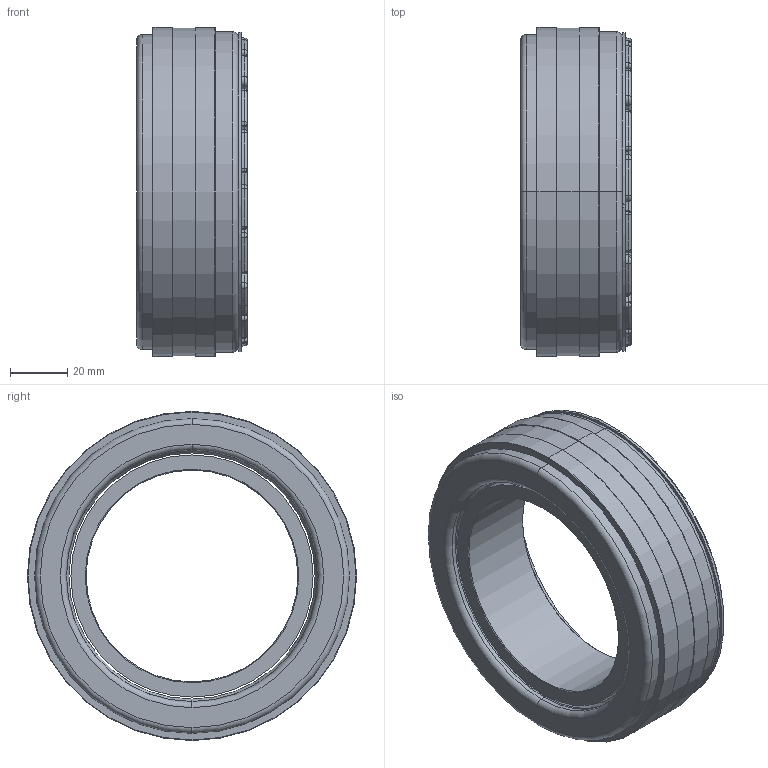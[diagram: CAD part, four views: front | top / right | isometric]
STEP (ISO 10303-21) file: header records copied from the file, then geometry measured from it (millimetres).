
FILE_DESCRIPTION (( 'STEP AP214' ), '1' );
FILE_NAME ('E-00108534.01.step', '2019-12-17T14:51:13', ( '' ), ( '' ), 'SwSTEP 2.0', 'SolidWorks 2018', '' );
FILE_SCHEMA (( 'AUTOMOTIVE_DESIGN' ));
Length unit declared in the file: millimetre
Products named in the file (4): E-00008459; E-00108529; E-00008452; E-00108534.01
Assembly tree (3 placements, depth 2):
  E-00108534.01
    E-00108529
    E-00008452
    E-00008459
Bounding box: 38.7 x 115 x 115 mm (x, y, z)
Volume: 189026 mm3; surface area: 55686.8 mm2
Topology: 3 solids, 3 shells, 679 faces, 1650 edges, 1048 vertices
Faces by surface type: plane 299, cylinder 248, torus 124, cone 8
Entity records: 24570 total; most frequent: DIRECTION 3824, CARTESIAN_POINT 3428, ORIENTED_EDGE 3300, EDGE_CURVE 1650, AXIS2_PLACEMENT_3D 1494, VERTEX_POINT 1048, VECTOR 836, LINE 836
